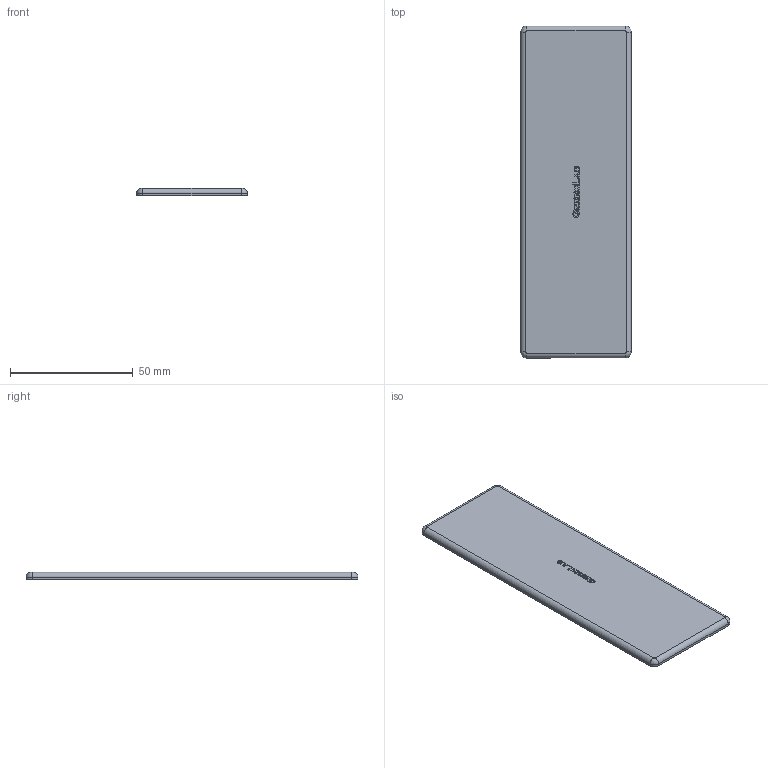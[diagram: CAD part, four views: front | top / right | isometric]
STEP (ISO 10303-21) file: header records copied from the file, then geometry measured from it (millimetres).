
FILE_DESCRIPTION (( 'STEP AP214' ), '1' );
FILE_NAME ('1.1026 Päätysuoja 45X135.STEP', '2025-09-03T08:58:24', ( '' ), ( '' ), 'SwSTEP 2.0', 'SolidWorks 2025', '' );
FILE_SCHEMA (( 'AUTOMOTIVE_DESIGN' ));
Length unit declared in the file: millimetre
Products named in the file (1): 1.1026 Päätysuoja 45X135
Bounding box: 45 x 135 x 3 mm (x, y, z)
Volume: 17895.2 mm3; surface area: 12953 mm2
Topology: 1 solids, 1 shells, 240 faces, 670 edges, 444 vertices
Faces by surface type: plane 143, bspline 85, cylinder 8, torus 4
Entity records: 10295 total; most frequent: CARTESIAN_POINT 4672, ORIENTED_EDGE 1340, DIRECTION 832, EDGE_CURVE 670, VECTOR 480, LINE 480, VERTEX_POINT 444, EDGE_LOOP 252
